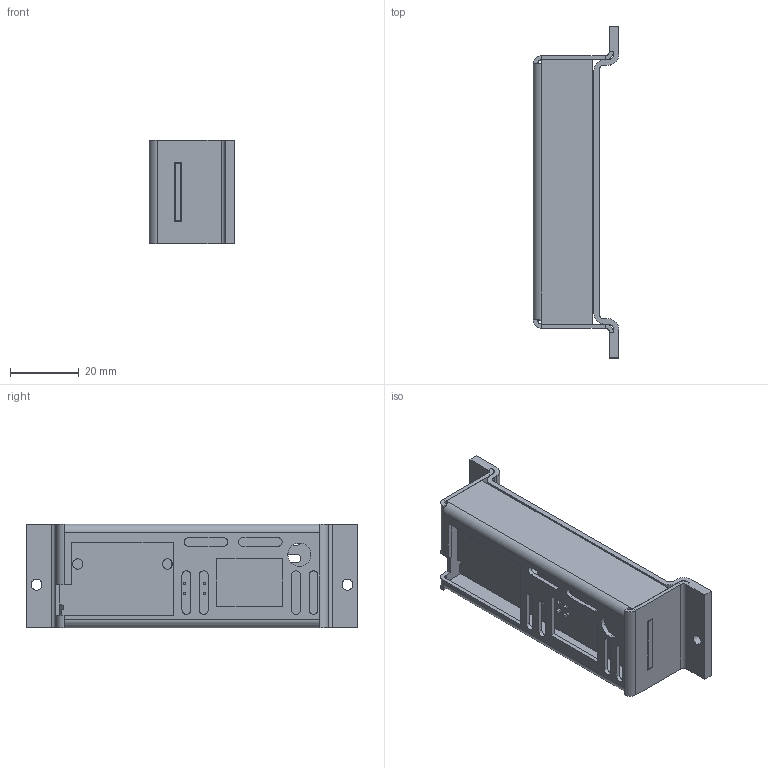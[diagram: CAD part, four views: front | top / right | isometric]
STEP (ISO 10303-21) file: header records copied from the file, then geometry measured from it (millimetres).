
FILE_DESCRIPTION((''),'2;1');
FILE_NAME('CU_SCXI-1357_1-SLOT','2011-08-16T',('jjorden'),(''),'PRO/ENGINEER BY PARAMETRIC TECHNOLOGY CORPORATION, 2010230','PRO/ENGINEER BY PARAMETRIC TECHNOLOGY CORPORATION, 2010230','');
FILE_SCHEMA(('CONFIG_CONTROL_DESIGN'));
Length unit declared in the file: inch
Products named in the file (1): CU_SCXI-1357_1-SLOT
Bounding box: 24.89 x 96.77 x 30.18 mm (x, y, z)
Volume: 14538.7 mm3; surface area: 23323.2 mm2
Topology: 1 solids, 1 shells, 526 faces, 1386 edges, 904 vertices
Faces by surface type: plane 450, cylinder 72, bspline 4
Entity records: 16262 total; most frequent: CARTESIAN_POINT 2980, ORIENTED_EDGE 2772, DIRECTION 2566, EDGE_CURVE 1386, VECTOR 1234, LINE 1234, VERTEX_POINT 904, AXIS2_PLACEMENT_3D 666
